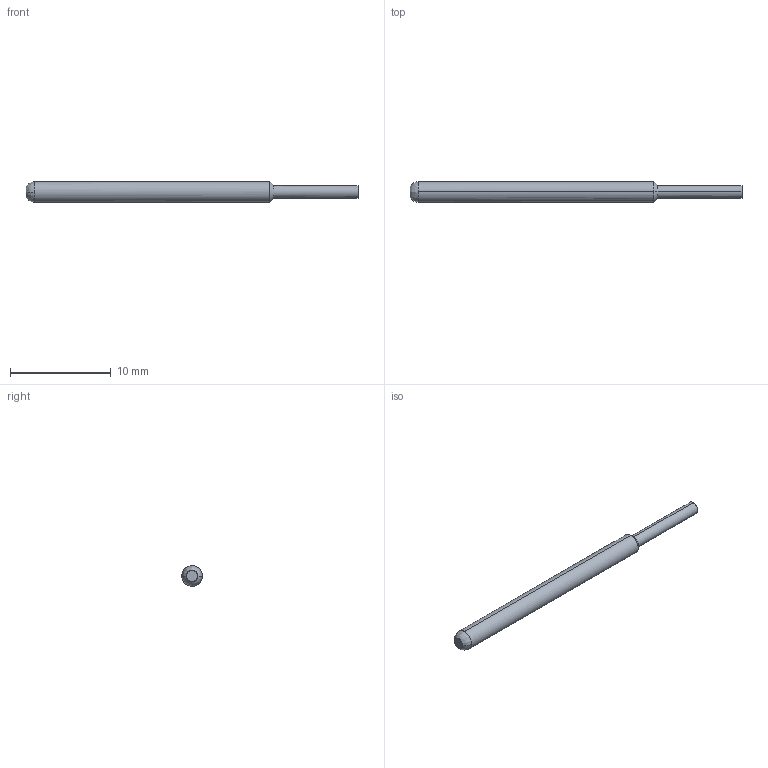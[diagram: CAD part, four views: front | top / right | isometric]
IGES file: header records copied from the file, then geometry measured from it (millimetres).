
Start section: SolidWorks IGES file using analytic representation for surfaces
Global section: file name: \\CODA-VM-SBS\RedirectedFolders\georged\My Documents\CODA CAD FILES\GENERAL PURPOSE TEST PROBES\MEDIUM REACH TEST PROBES\PA5 SERIES\PA5C.IGS; native system: SolidWorks 2024; preprocessor: SolidWorks 2024; author: GeorgeD; date: 240904.144726; units: inch
Bounding box: 33.02 x 2.03 x 2.03 mm (x, y, z)
Surface area: 193.4 mm2 (no closed solid volume)
Topology: 0 solids, 0 shells, 10 faces, 68 edges, 68 vertices
Faces by surface type: bspline 10
